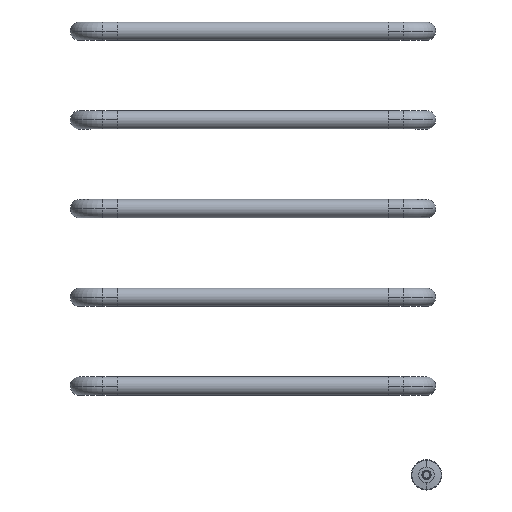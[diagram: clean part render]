
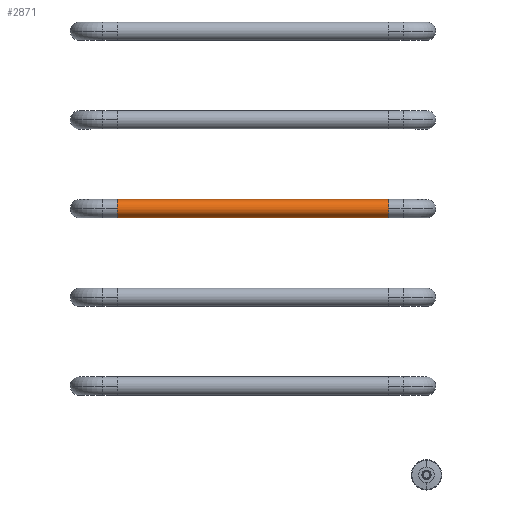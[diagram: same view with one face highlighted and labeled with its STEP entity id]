
A CAD part, top view. The second image highlights one B-rep face of the part: STEP entity #2871.
In plain terms, the highlighted cylindrical face has radius 17.5 mm (diameter 35 mm), a partial arc.
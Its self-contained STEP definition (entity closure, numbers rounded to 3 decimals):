
#87 = AXIS2_PLACEMENT_3D ( 'NONE', #1188, #225, #2869 ) ;
#161 = CARTESIAN_POINT ( 'NONE',  ( 260., 0., 17.5 ) ) ;
#195 = EDGE_CURVE ( 'NONE', #2962, #960, #3765, .T. ) ;
#225 = DIRECTION ( 'NONE',  ( -1., 0., 0. ) ) ;
#241 = CARTESIAN_POINT ( 'NONE',  ( -260., 0., -17.5 ) ) ;
#384 = EDGE_CURVE ( 'NONE', #2987, #3143, #1170, .T. ) ;
#688 = DIRECTION ( 'NONE',  ( 0., 0., 1. ) ) ;
#807 = AXIS2_PLACEMENT_3D ( 'NONE', #4071, #4025, #824 ) ;
#811 = LINE ( 'NONE', #161, #3296 ) ;
#824 = DIRECTION ( 'NONE',  ( 0., 0., 1. ) ) ;
#846 = AXIS2_PLACEMENT_3D ( 'NONE', #3604, #1398, #688 ) ;
#960 = VERTEX_POINT ( 'NONE', #3415 ) ;
#1129 = ORIENTED_EDGE ( 'NONE', *, *, #4050, .T. ) ;
#1170 = CIRCLE ( 'NONE', #3555, 17.5 ) ;
#1175 = DIRECTION ( 'NONE',  ( -1., 0., 0. ) ) ;
#1188 = CARTESIAN_POINT ( 'NONE',  ( 260., 0., 0. ) ) ;
#1263 = DIRECTION ( 'NONE',  ( -1., 0., 0. ) ) ;
#1290 = ORIENTED_EDGE ( 'NONE', *, *, #195, .F. ) ;
#1398 = DIRECTION ( 'NONE',  ( -1., 0., 0. ) ) ;
#1419 = ORIENTED_EDGE ( 'NONE', *, *, #384, .T. ) ;
#1455 = EDGE_LOOP ( 'NONE', ( #1419, #2036, #2301, #1290, #2946, #1129 ) ) ;
#1576 = CIRCLE ( 'NONE', #846, 17.5 ) ;
#1579 = VECTOR ( 'NONE', #1263, 1000. ) ;
#1687 = VERTEX_POINT ( 'NONE', #3270 ) ;
#1726 = DIRECTION ( 'NONE',  ( 0., 0., 1. ) ) ;
#2036 = ORIENTED_EDGE ( 'NONE', *, *, #2429, .T. ) ;
#2113 = EDGE_CURVE ( 'NONE', #960, #3409, #1576, .T. ) ;
#2125 = AXIS2_PLACEMENT_3D ( 'NONE', #2997, #4006, #1726 ) ;
#2301 = ORIENTED_EDGE ( 'NONE', *, *, #2113, .F. ) ;
#2429 = EDGE_CURVE ( 'NONE', #3143, #3409, #4177, .T. ) ;
#2478 = DIRECTION ( 'NONE',  ( 0., 0., 1. ) ) ;
#2765 = DIRECTION ( 'NONE',  ( -1., 0., 0. ) ) ;
#2833 = EDGE_CURVE ( 'NONE', #1687, #2962, #811, .T. ) ;
#2869 = DIRECTION ( 'NONE',  ( 0., 0., 1. ) ) ;
#2871 = ADVANCED_FACE ( 'NONE', ( #3471 ), #3807, .T. ) ;
#2893 = CARTESIAN_POINT ( 'NONE',  ( 260., 17.5, 0. ) ) ;
#2946 = ORIENTED_EDGE ( 'NONE', *, *, #2833, .F. ) ;
#2962 = VERTEX_POINT ( 'NONE', #3157 ) ;
#2987 = VERTEX_POINT ( 'NONE', #2893 ) ;
#2996 = CIRCLE ( 'NONE', #807, 17.5 ) ;
#2997 = CARTESIAN_POINT ( 'NONE',  ( -260., 0., 0. ) ) ;
#3143 = VERTEX_POINT ( 'NONE', #3593 ) ;
#3157 = CARTESIAN_POINT ( 'NONE',  ( -260., 0., 17.5 ) ) ;
#3199 = CARTESIAN_POINT ( 'NONE',  ( 260., 0., -17.5 ) ) ;
#3270 = CARTESIAN_POINT ( 'NONE',  ( 260., 0., 17.5 ) ) ;
#3296 = VECTOR ( 'NONE', #2765, 1000. ) ;
#3409 = VERTEX_POINT ( 'NONE', #241 ) ;
#3415 = CARTESIAN_POINT ( 'NONE',  ( -260., 17.5, 0. ) ) ;
#3471 = FACE_OUTER_BOUND ( 'NONE', #1455, .T. ) ;
#3555 = AXIS2_PLACEMENT_3D ( 'NONE', #4095, #1175, #2478 ) ;
#3593 = CARTESIAN_POINT ( 'NONE',  ( 260., 0., -17.5 ) ) ;
#3604 = CARTESIAN_POINT ( 'NONE',  ( -260., 0., 0. ) ) ;
#3765 = CIRCLE ( 'NONE', #2125, 17.5 ) ;
#3807 = CYLINDRICAL_SURFACE ( 'NONE', #87, 17.5 ) ;
#4006 = DIRECTION ( 'NONE',  ( -1., 0., 0. ) ) ;
#4025 = DIRECTION ( 'NONE',  ( -1., 0., 0. ) ) ;
#4050 = EDGE_CURVE ( 'NONE', #1687, #2987, #2996, .T. ) ;
#4071 = CARTESIAN_POINT ( 'NONE',  ( 260., 0., 0. ) ) ;
#4095 = CARTESIAN_POINT ( 'NONE',  ( 260., 0., 0. ) ) ;
#4177 = LINE ( 'NONE', #3199, #1579 ) ;
